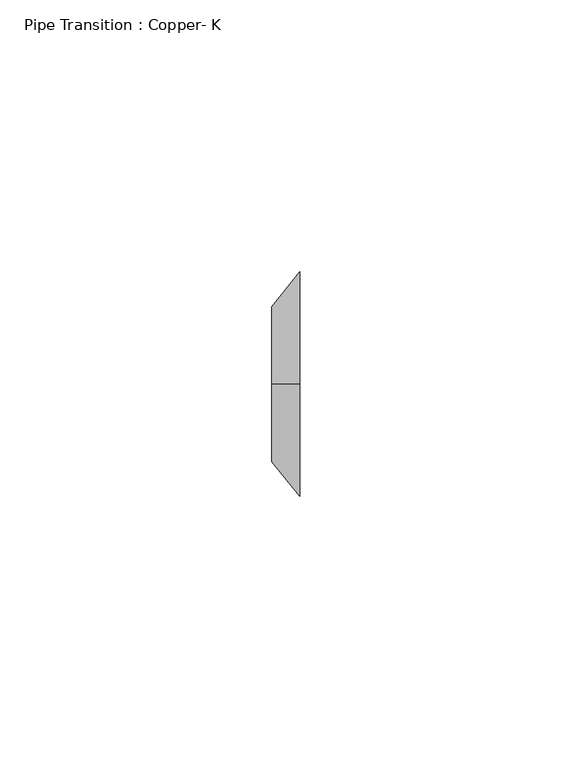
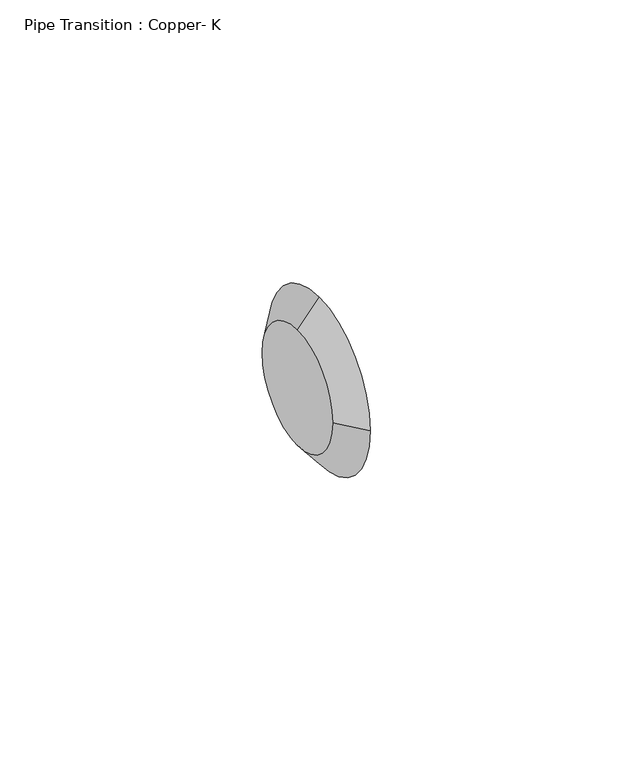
"""IFC4 building model written with IfcOpenShell, lengths in millimetres: pipe fitting geometry, Pipe Transition : Copper- K."""

from ifc_helpers import new_model, si_unit, frame, origin, place, context, project, spatial, circle_curve, source, transform, mapped, element, save
from ifc_brep_helpers import plane_surface, spline_surface, advanced_brep


def pipe_transition_copper_k_65f470c7(model_context):
    return source(origin(), model_context, "Body", "AdvancedBrep", [
        advanced_brep(
        [(5.159375, 0.0422496, 20.6375), (5.159375, -20.5952504, 0.0), (5.159375, 0.0422496, -20.6375), (5.159375, 20.6797496, 0.0), (0.0, 0.0, 14.2875), (0.0, 14.2875, 0.0), (0.0, 0.0, -14.2875), (0.0, -14.2875, 0.0)],
        [
            (0, 1, circle_curve(frame((5.159375, 0.0422496, 0.0), z_axis=(1.0, 0.0, 0.0), x_axis=(0.0, 1.0, 0.0)), 20.6375)),
            (1, 2, circle_curve(frame((5.159375, 0.0422496, 0.0), z_axis=(1.0, 0.0, 0.0), x_axis=(0.0, 1.0, 0.0)), 20.6375)),
            (2, 3, circle_curve(frame((5.159375, 0.0422496, 0.0), z_axis=(1.0, 0.0, 0.0), x_axis=(0.0, 1.0, 0.0)), 20.6375)),
            (3, 0, circle_curve(frame((5.159375, 0.0422496, 0.0), z_axis=(1.0, 0.0, 0.0), x_axis=(0.0, 1.0, 0.0)), 20.6375)),
            (4, 5, circle_curve(frame((0.0, 0.0, 0.0), z_axis=(-1.0, 0.0, 0.0), x_axis=(0.0, 1.0, 0.0)), 14.2875)),
            (5, 6, circle_curve(frame((0.0, 0.0, 0.0), z_axis=(-1.0, 0.0, 0.0), x_axis=(0.0, 1.0, 0.0)), 14.2875)),
            (6, 7, circle_curve(frame((0.0, 0.0, 0.0), z_axis=(-1.0, 0.0, 0.0), x_axis=(0.0, 1.0, 0.0)), 14.2875)),
            (7, 4, circle_curve(frame((0.0, 0.0, 0.0), z_axis=(-1.0, 0.0, 0.0), x_axis=(0.0, 1.0, 0.0)), 14.2875)),
            (7, 1),
            (0, 4),
            (6, 2),
            (5, 3),
        ],
        [
            plane_surface(frame((5.159375, 0.0422496, 0.0), z_axis=(1.0, 0.0, 0.0), x_axis=(0.0, -1.0, 0.0))),
            plane_surface(frame((0.0, 0.0, 0.0), z_axis=(-1.0, 0.0, 0.0), x_axis=(0.0, -1.0, 0.0))),
            spline_surface(2, 1, [[(0.0, 0.0, 14.2875), (5.159375, 0.0422496, 20.6375)], [(0.0, -14.2875, 14.287499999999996), (5.159375, -20.595250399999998, 20.637499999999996)], [(0.0, -14.2875, 0.0), (5.159375, -20.5952504, 0.0)]], [3, 3], [2, 2], [0.0, 1.0], [0.0, 1.0], weights=[[1.0, 1.0], [0.7071067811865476, 0.7071067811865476], [1.0, 1.0]]),
            spline_surface(2, 1, [[(0.0, -14.2875, 0.0), (5.159375, -20.5952504, 0.0)], [(0.0, -14.287500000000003, -14.2875), (5.159375, -20.595250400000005, -20.637500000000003)], [(0.0, 0.0, -14.2875), (5.159375, 0.0422496, -20.6375)]], [3, 3], [2, 2], [0.0, 1.0], [0.0, 1.0], weights=[[1.0, 1.0], [0.7071067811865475, 0.7071067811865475], [1.0, 1.0]]),
            spline_surface(2, 1, [[(0.0, 0.0, -14.2875), (5.159375, 0.0422496, -20.6375)], [(0.0, 14.2875, -14.2875), (5.159375, 20.6797496, -20.6375)], [(0.0, 14.2875, 0.0), (5.159375, 20.6797496, 0.0)]], [3, 3], [2, 2], [0.0, 1.0], [0.0, 1.0], weights=[[1.0, 1.0], [0.7071067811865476, 0.7071067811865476], [1.0, 1.0]]),
            spline_surface(2, 1, [[(0.0, 14.2875, 0.0), (5.159375, 20.6797496, 0.0)], [(0.0, 14.2875, 14.2875), (5.159375, 20.6797496, 20.6375)], [(0.0, 0.0, 14.2875), (5.159375, 0.0422496, 20.6375)]], [3, 3], [2, 2], [0.0, 1.0], [0.0, 1.0], weights=[[1.0, 1.0], [0.7071067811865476, 0.7071067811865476], [1.0, 1.0]]),
        ],
        [
            (0, [[1, 2, 3, 4]]),
            (1, [[5, 6, 7, 8]]),
            (2, [[-8, 9, -1, 10]]),
            (3, [[-7, 11, -2, -9]]),
            (4, [[-6, 12, -3, -11]]),
            (5, [[-5, -10, -4, -12]]),
        ],
    ),
        advanced_brep(
        [(5.159375, 0.0422496, 20.6375), (5.159375, -20.5952504, 0.0), (5.159375, 0.0422496, -20.6375), (5.159375, 20.6797496, 0.0), (0.0, 0.0, 14.2875), (0.0, 14.2875, 0.0), (0.0, 0.0, -14.2875), (0.0, -14.2875, 0.0)],
        [
            (0, 1, circle_curve(frame((5.159375, 0.0422496, 0.0), z_axis=(1.0, 0.0, 0.0), x_axis=(0.0, 1.0, 0.0)), 20.6375)),
            (1, 2, circle_curve(frame((5.159375, 0.0422496, 0.0), z_axis=(1.0, 0.0, 0.0), x_axis=(0.0, 1.0, 0.0)), 20.6375)),
            (2, 3, circle_curve(frame((5.159375, 0.0422496, 0.0), z_axis=(1.0, 0.0, 0.0), x_axis=(0.0, 1.0, 0.0)), 20.6375)),
            (3, 0, circle_curve(frame((5.159375, 0.0422496, 0.0), z_axis=(1.0, 0.0, 0.0), x_axis=(0.0, 1.0, 0.0)), 20.6375)),
            (4, 5, circle_curve(frame((0.0, 0.0, 0.0), z_axis=(-1.0, 0.0, 0.0), x_axis=(0.0, 1.0, 0.0)), 14.2875)),
            (5, 6, circle_curve(frame((0.0, 0.0, 0.0), z_axis=(-1.0, 0.0, 0.0), x_axis=(0.0, 1.0, 0.0)), 14.2875)),
            (6, 7, circle_curve(frame((0.0, 0.0, 0.0), z_axis=(-1.0, 0.0, 0.0), x_axis=(0.0, 1.0, 0.0)), 14.2875)),
            (7, 4, circle_curve(frame((0.0, 0.0, 0.0), z_axis=(-1.0, 0.0, 0.0), x_axis=(0.0, 1.0, 0.0)), 14.2875)),
            (7, 1),
            (0, 4),
            (6, 2),
            (5, 3),
        ],
        [
            plane_surface(frame((5.159375, 0.0422496, 0.0), z_axis=(1.0, 0.0, 0.0), x_axis=(0.0, -1.0, 0.0))),
            plane_surface(frame((0.0, 0.0, 0.0), z_axis=(-1.0, 0.0, 0.0), x_axis=(0.0, -1.0, 0.0))),
            spline_surface(2, 1, [[(0.0, 0.0, 14.2875), (5.159375, 0.0422496, 20.6375)], [(0.0, -14.2875, 14.287499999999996), (5.159375, -20.595250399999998, 20.637499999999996)], [(0.0, -14.2875, 0.0), (5.159375, -20.5952504, 0.0)]], [3, 3], [2, 2], [0.0, 1.0], [0.0, 1.0], weights=[[1.0, 1.0], [0.7071067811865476, 0.7071067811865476], [1.0, 1.0]]),
            spline_surface(2, 1, [[(0.0, -14.2875, 0.0), (5.159375, -20.5952504, 0.0)], [(0.0, -14.287500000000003, -14.2875), (5.159375, -20.595250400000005, -20.637500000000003)], [(0.0, 0.0, -14.2875), (5.159375, 0.0422496, -20.6375)]], [3, 3], [2, 2], [0.0, 1.0], [0.0, 1.0], weights=[[1.0, 1.0], [0.7071067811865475, 0.7071067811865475], [1.0, 1.0]]),
            spline_surface(2, 1, [[(0.0, 0.0, -14.2875), (5.159375, 0.0422496, -20.6375)], [(0.0, 14.2875, -14.2875), (5.159375, 20.6797496, -20.6375)], [(0.0, 14.2875, 0.0), (5.159375, 20.6797496, 0.0)]], [3, 3], [2, 2], [0.0, 1.0], [0.0, 1.0], weights=[[1.0, 1.0], [0.7071067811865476, 0.7071067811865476], [1.0, 1.0]]),
            spline_surface(2, 1, [[(0.0, 14.2875, 0.0), (5.159375, 20.6797496, 0.0)], [(0.0, 14.2875, 14.2875), (5.159375, 20.6797496, 20.6375)], [(0.0, 0.0, 14.2875), (5.159375, 0.0422496, 20.6375)]], [3, 3], [2, 2], [0.0, 1.0], [0.0, 1.0], weights=[[1.0, 1.0], [0.7071067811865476, 0.7071067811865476], [1.0, 1.0]]),
        ],
        [
            (0, [[1, 2, 3, 4]]),
            (1, [[5, 6, 7, 8]]),
            (2, [[-8, 9, -1, 10]]),
            (3, [[-7, 11, -2, -9]]),
            (4, [[-6, 12, -3, -11]]),
            (5, [[-5, -10, -4, -12]]),
        ],
    ),
    ])


if __name__ == "__main__":
    model = new_model("IFC4")
    model_context = context("Model", 3, world=origin())
    ifc_project = project(units=[si_unit("LENGTHUNIT", "METRE", prefix="MILLI")], contexts=[model_context])
    site = spatial("IfcSite", under=ifc_project)
    building = spatial("IfcBuilding", under=site)
    placement = place(None, origin())
    pipe_transition_copper_k_shape = pipe_transition_copper_k_65f470c7(model_context)
    element("IfcPipeFitting", 1, ObjectType="Pipe Transition : Copper- K", at=placement, inside=building, context=model_context, shape_type="MappedRepresentation", body=[
        mapped(pipe_transition_copper_k_shape, transform((0.0, 0.0, 0.0), x_axis=(1.0, 0.0, 0.0), y_axis=(0.0, 1.0, 0.0), z_axis=(0.0, 0.0, 1.0))),
    ])
    save(model, "model.ifc")
